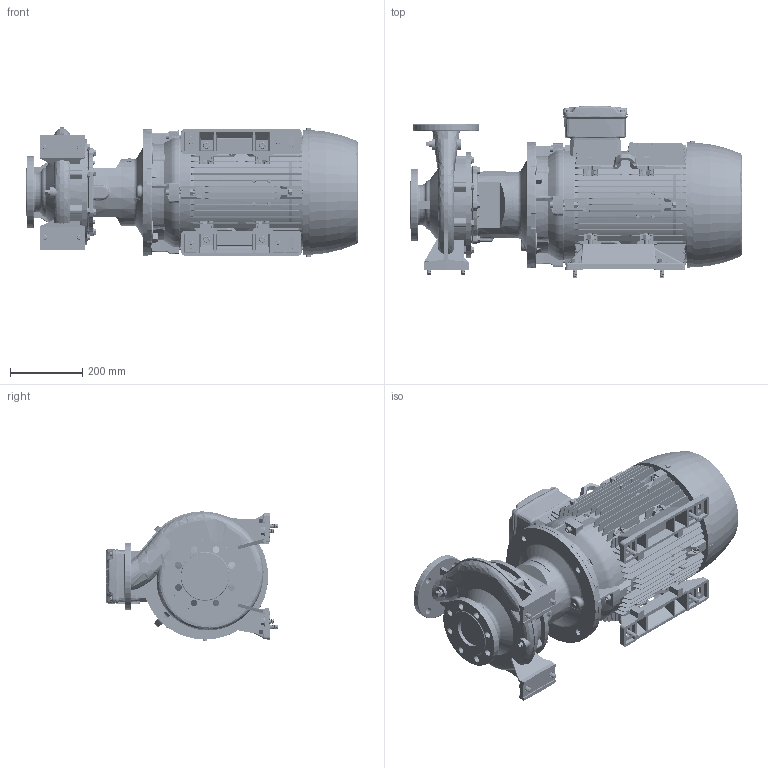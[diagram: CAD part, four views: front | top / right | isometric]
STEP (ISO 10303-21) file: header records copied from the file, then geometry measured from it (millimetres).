
FILE_DESCRIPTION (( 'STEP AP214' ), '1' );
FILE_NAME ('GSD2 65-200_22.0_(180ML)_W21.STEP', '2026-07-08T06:43:57', ( '' ), ( '' ), 'SwSTEP 2.0', 'SolidWorks 2024', '' );
FILE_SCHEMA (( 'AUTOMOTIVE_DESIGN' ));
Length unit declared in the file: millimetre
Products named in the file (8): Parametric bolt_SFT-A299B; 65-200-180M_L_ﾃﾞﾌｫﾙﾄ; 180M_L ALIE3_W21T_B35; Parametric Flat Washer_M12; Parametric bolt and washer_SFT-A305B; Parametric bolt_SFT-A305B; Parametric bolt and washer_SFT-A299B; GSD2  65-200_22.0_(180ML)_W21
Assembly tree (14 placements, depth 3):
  GSD2  65-200_22.0_(180ML)_W21
    65-200-180M_L_ﾃﾞﾌｫﾙﾄ
    Parametric bolt and washer_SFT-A299B  x4
      Parametric bolt_SFT-A299B
      Parametric Flat Washer_M12
    180M_L ALIE3_W21T_B35
    Parametric bolt and washer_SFT-A305B  x4
      Parametric bolt_SFT-A305B
      Parametric Flat Washer_M12
Bounding box: 919.8 x 477 x 358.13 mm (x, y, z)
Volume: 59202611.1 mm3; surface area: 3270771 mm2
Topology: 43 solids, 43 shells, 6372 faces, 16516 edges, 10686 vertices
Faces by surface type: plane 3830, cylinder 1180, cone 638, bspline 430, torus 278, sphere 16
Entity records: 224873 total; most frequent: CARTESIAN_POINT 84322, ORIENTED_EDGE 30996, DIRECTION 26119, EDGE_CURVE 15498, VERTEX_POINT 10035, VECTOR 9689, LINE 9689, AXIS2_PLACEMENT_3D 8215
